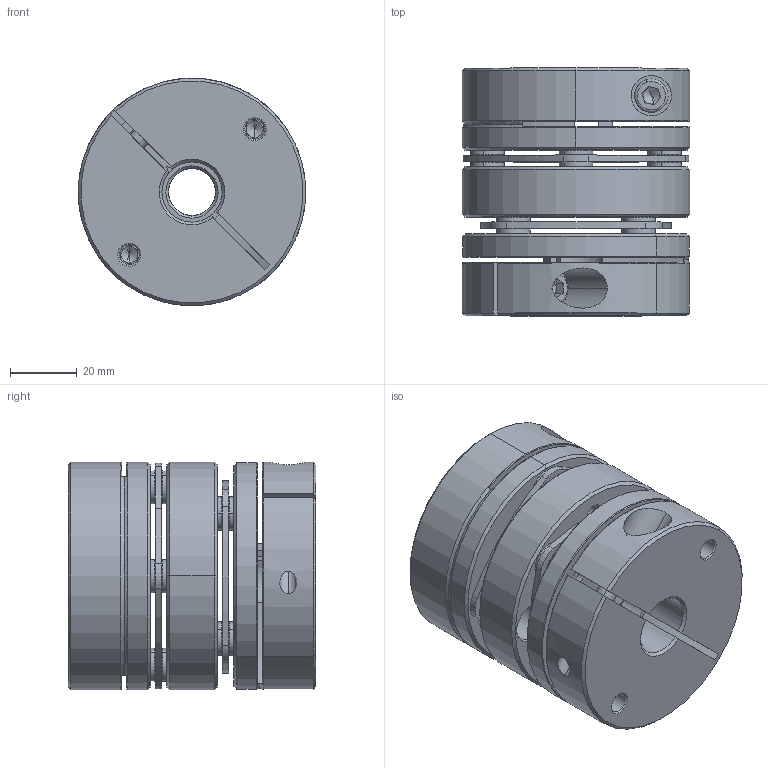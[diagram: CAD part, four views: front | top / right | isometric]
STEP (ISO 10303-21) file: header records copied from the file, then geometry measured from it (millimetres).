
FILE_DESCRIPTION (( 'STEP AP203' ), '1' );
FILE_NAME ('LD2-D68-14-18.STEP', '2021-10-26T08:11:37', ( '' ), ( '' ), 'SwSTEP 2.0', 'SolidWorks 2018', '' );
FILE_SCHEMA (( 'CONFIG_CONTROL_DESIGN' ));
Length unit declared in the file: millimetre
Products named in the file (2): LD2-D68-14-18; 錨璃102^LD2-D68
Assembly tree (1 placements, depth 2):
  LD2-D68-14-18
    錨璃102^LD2-D68
Bounding box: 68 x 74 x 68 mm (x, y, z)
Volume: 194726.4 mm3; surface area: 65110.6 mm2
Topology: 1 solids, 27 shells, 738 faces, 1724 edges, 1050 vertices
Faces by surface type: cylinder 258, cone 226, plane 224, torus 30
Entity records: 21692 total; most frequent: DIRECTION 4032, CARTESIAN_POINT 3958, ORIENTED_EDGE 3400, EDGE_CURVE 1700, AXIS2_PLACEMENT_3D 1636, VERTEX_POINT 1050, CIRCLE 894, EDGE_LOOP 874
